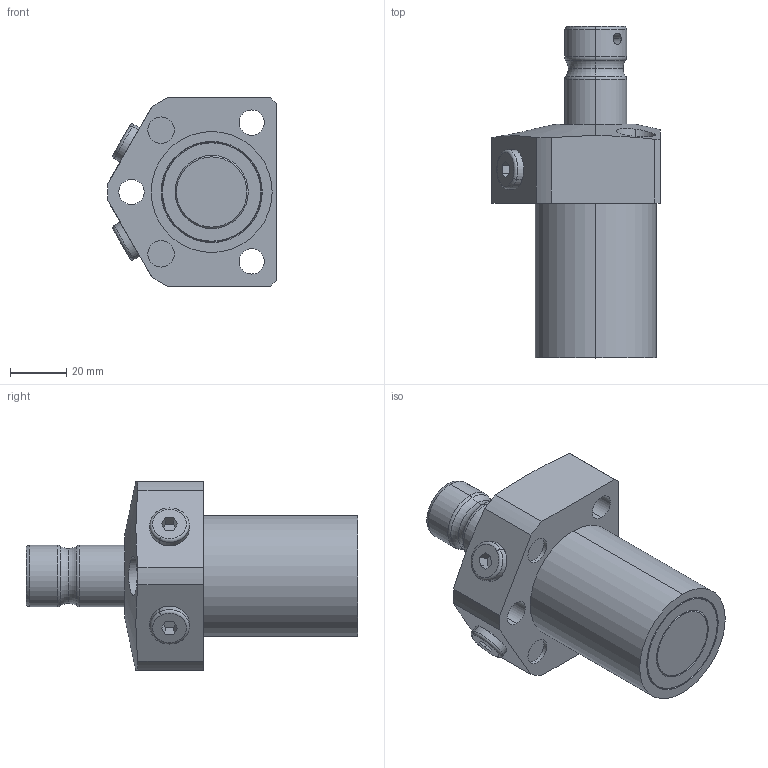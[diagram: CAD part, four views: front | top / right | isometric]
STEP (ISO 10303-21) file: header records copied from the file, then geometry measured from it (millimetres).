
FILE_DESCRIPTION (( 'STEP AP203' ), '1' );
FILE_NAME ('231001-CL.STEP', '2019-06-29T08:08:29', ( '微软用户' ), ( '微软中国' ), 'SwSTEP 2.0', 'SolidWorks 2014', '' );
FILE_SCHEMA (( 'CONFIG_CONTROL_DESIGN' ));
Length unit declared in the file: millimetre
Products named in the file (5): 葩璃 4BN-02WD^231001-CL; 葩璃 231001.01^231001-CL; 葩璃 231001.04^231001-CL; 231001-CL; 葩璃 231001.02^231001-CL
Assembly tree (5 placements, depth 2):
  231001-CL
    葩璃 231001.02^231001-CL
    葩璃 4BN-02WD^231001-CL  x2
    葩璃 231001.01^231001-CL
    葩璃 231001.04^231001-CL
Bounding box: 59.99 x 118 x 67 mm (x, y, z)
Volume: 195966.4 mm3; surface area: 32620 mm2
Topology: 5 solids, 5 shells, 135 faces, 284 edges, 176 vertices
Faces by surface type: cylinder 51, plane 46, torus 20, cone 18
Entity records: 3899 total; most frequent: CARTESIAN_POINT 921, DIRECTION 565, ORIENTED_EDGE 460, AXIS2_PLACEMENT_3D 237, EDGE_CURVE 230, VERTEX_POINT 144, EDGE_LOOP 130, CIRCLE 120
